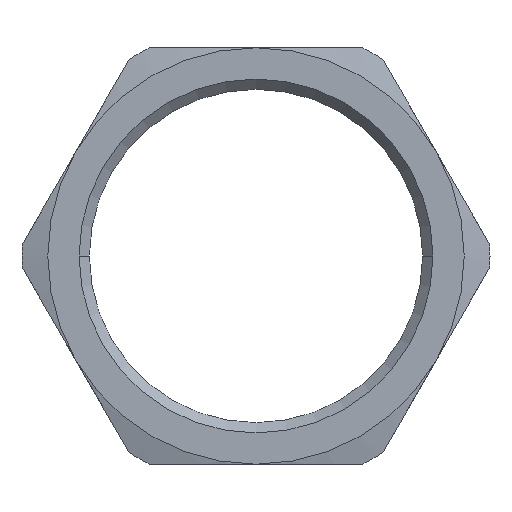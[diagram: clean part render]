
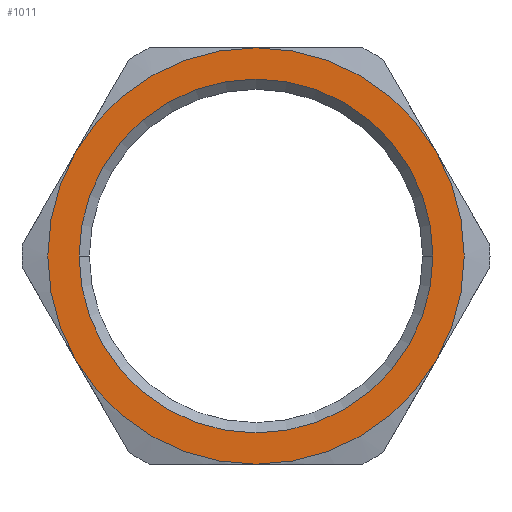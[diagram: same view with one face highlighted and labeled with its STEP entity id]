
A CAD part, left-side view. The second image highlights one B-rep face of the part: STEP entity #1011.
In plain terms, the highlighted planar face has unit normal (-1, 0, 0) as drawn and (0, 0, 1) by its records, which use the part's own axes.
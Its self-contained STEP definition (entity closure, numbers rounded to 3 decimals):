
#299=CARTESIAN_POINT('',(0.,21.25,4.5));
#300=VERTEX_POINT('',#299);
#314=CARTESIAN_POINT('',(0.,-21.25,4.5));
#315=VERTEX_POINT('',#314);
#322=CARTESIAN_POINT('',(0.,0.,4.5));
#323=DIRECTION('',(0.0,0.0,-1.0));
#324=DIRECTION('',(0.0,1.0,0.0));
#325=AXIS2_PLACEMENT_3D('',#322,#323,#324);
#326=CIRCLE('',#325,21.25);
#327=EDGE_CURVE('',#300,#315,#326,.T.);
#338=CARTESIAN_POINT('',(0.,0.,4.5));
#339=DIRECTION('',(0.0,0.0,-1.0));
#340=DIRECTION('',(0.0,1.0,0.0));
#341=AXIS2_PLACEMENT_3D('',#338,#339,#340);
#342=CIRCLE('',#341,21.25);
#343=EDGE_CURVE('',#315,#300,#342,.T.);
#626=CARTESIAN_POINT('',(-25.0,0.,4.5));
#627=VERTEX_POINT('',#626);
#641=CARTESIAN_POINT('',(-12.5,21.651,4.5));
#642=VERTEX_POINT('',#641);
#643=CARTESIAN_POINT('',(0.,0.0,4.5));
#644=DIRECTION('',(0.0,0.0,1.0));
#645=DIRECTION('',(1.0,0.0,0.0));
#646=AXIS2_PLACEMENT_3D('',#643,#644,#645);
#647=CIRCLE('',#646,25.0);
#648=EDGE_CURVE('',#642,#627,#647,.T.);
#702=CARTESIAN_POINT('',(-12.5,-21.651,4.5));
#703=VERTEX_POINT('',#702);
#717=CARTESIAN_POINT('',(0.,0.0,4.5));
#718=DIRECTION('',(0.0,0.0,1.0));
#719=DIRECTION('',(1.0,0.0,0.0));
#720=AXIS2_PLACEMENT_3D('',#717,#718,#719);
#721=CIRCLE('',#720,25.0);
#722=EDGE_CURVE('',#627,#703,#721,.T.);
#764=CARTESIAN_POINT('',(12.5,-21.651,4.5));
#765=VERTEX_POINT('',#764);
#779=CARTESIAN_POINT('',(0.,0.0,4.5));
#780=DIRECTION('',(0.0,0.0,1.0));
#781=DIRECTION('',(1.0,0.0,0.0));
#782=AXIS2_PLACEMENT_3D('',#779,#780,#781);
#783=CIRCLE('',#782,25.0);
#784=EDGE_CURVE('',#703,#765,#783,.T.);
#827=CARTESIAN_POINT('',(25.0,0.0,4.5));
#828=VERTEX_POINT('',#827);
#842=CARTESIAN_POINT('',(0.,0.0,4.5));
#843=DIRECTION('',(0.0,0.0,1.0));
#844=DIRECTION('',(1.0,0.0,0.0));
#845=AXIS2_PLACEMENT_3D('',#842,#843,#844);
#846=CIRCLE('',#845,25.0);
#847=EDGE_CURVE('',#765,#828,#846,.T.);
#872=CARTESIAN_POINT('',(12.5,21.651,4.5));
#873=VERTEX_POINT('',#872);
#874=CARTESIAN_POINT('',(0.,0.0,4.5));
#875=DIRECTION('',(0.0,0.0,1.0));
#876=DIRECTION('',(1.0,0.0,0.0));
#877=AXIS2_PLACEMENT_3D('',#874,#875,#876);
#878=CIRCLE('',#877,25.0);
#879=EDGE_CURVE('',#873,#642,#878,.T.);
#917=CARTESIAN_POINT('',(0.,0.0,4.5));
#918=DIRECTION('',(0.0,0.0,1.0));
#919=DIRECTION('',(1.0,0.0,0.0));
#920=AXIS2_PLACEMENT_3D('',#917,#918,#919);
#921=CIRCLE('',#920,25.0);
#922=EDGE_CURVE('',#828,#873,#921,.T.);
#994=CARTESIAN_POINT('',(0.,0.,4.5));
#995=DIRECTION('',(0.0,0.0,1.0));
#996=DIRECTION('',(1.0,0.0,0.0));
#997=AXIS2_PLACEMENT_3D('',#994,#995,#996);
#998=PLANE('',#997);
#999=ORIENTED_EDGE('',*,*,#847,.T.);
#1000=ORIENTED_EDGE('',*,*,#922,.T.);
#1001=ORIENTED_EDGE('',*,*,#879,.T.);
#1002=ORIENTED_EDGE('',*,*,#648,.T.);
#1003=ORIENTED_EDGE('',*,*,#722,.T.);
#1004=ORIENTED_EDGE('',*,*,#784,.T.);
#1005=EDGE_LOOP('',(#999,#1000,#1001,#1002,#1003,#1004));
#1006=FACE_OUTER_BOUND('',#1005,.T.);
#1007=ORIENTED_EDGE('',*,*,#327,.T.);
#1008=ORIENTED_EDGE('',*,*,#343,.T.);
#1009=EDGE_LOOP('',(#1007,#1008));
#1010=FACE_BOUND('',#1009,.T.);
#1011=ADVANCED_FACE('',(#1006,#1010),#998,.T.);
